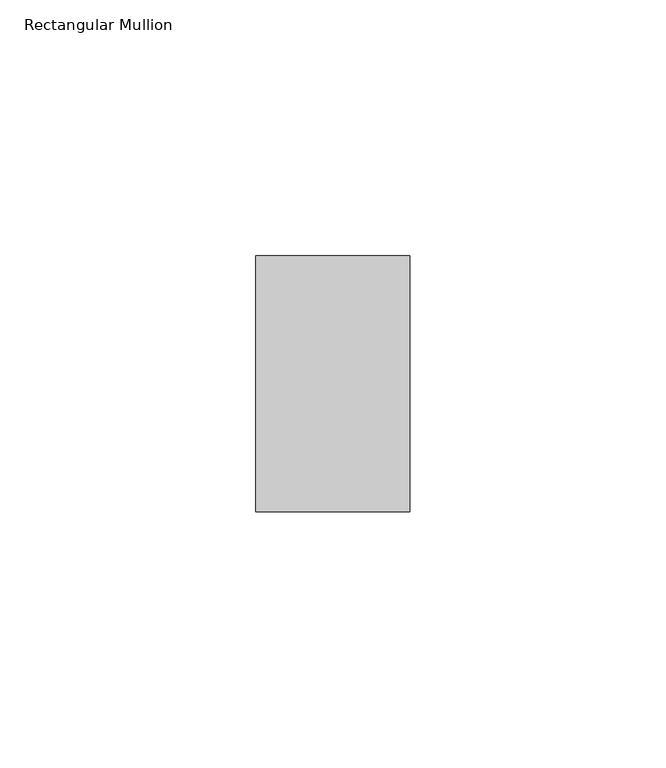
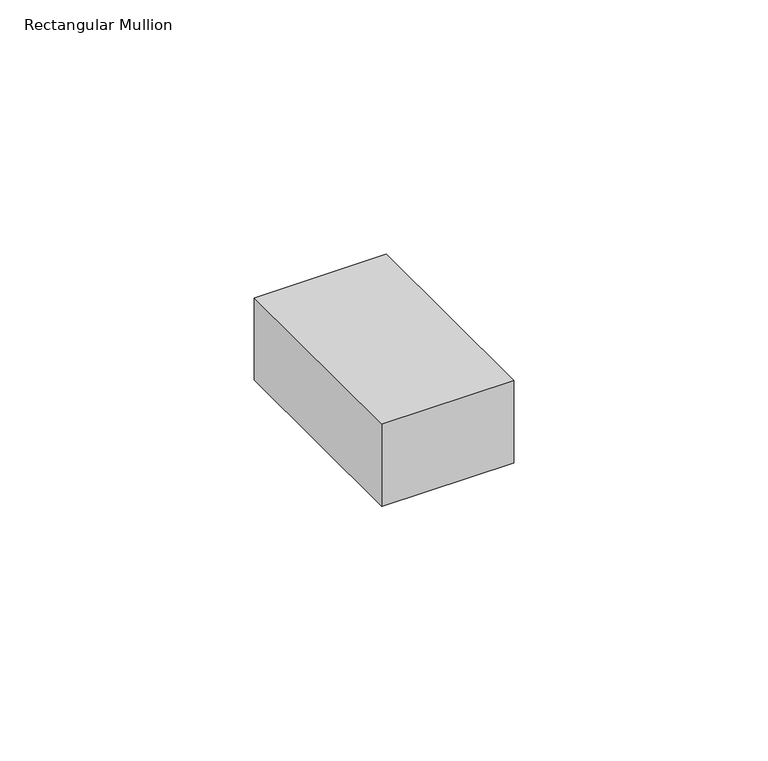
"""IFC4 building model written with IfcOpenShell, lengths in millimetres: member geometry, Rectangular Mullion : ARQ_TV_MULL_50x30mm."""

from ifc_helpers import new_model, si_unit, frame, origin, place, context, project, spatial, polyline, outline, extrude, source, transform, mapped, element, save


def rectangular_mullion_22ee7f7e(model_context):
    return source(origin(), model_context, "Body", "SweptSolid", [
        extrude(outline(polyline([(0.0, 25.0), (0.0, -25.0), (-30.0, -25.0), (-30.0, 25.0), (0.0, 25.0)])), frame((0.0, 0.0, -19.763927), z_axis=(0.0, 0.0, 1.0), x_axis=(1.0, 0.0, 0.0)), (0.0, 0.0, 1.0), 19.763927),
    ])


if __name__ == "__main__":
    model = new_model("IFC4")
    model_context = context("Model", 3, world=origin())
    ifc_project = project(units=[si_unit("LENGTHUNIT", "METRE", prefix="MILLI")], contexts=[model_context])
    site = spatial("IfcSite", under=ifc_project)
    building = spatial("IfcBuilding", under=site)
    placement = place(None, origin())
    rectangular_mullion_shape = rectangular_mullion_22ee7f7e(model_context)
    element("IfcMember", 1, ObjectType="Rectangular Mullion : ARQ_TV_MULL_50x30mm", at=placement, inside=building, context=model_context, shape_type="MappedRepresentation", body=[
        mapped(rectangular_mullion_shape, transform((0.0, 0.0, 0.0), x_axis=(1.0, 0.0, 0.0), y_axis=(0.0, 1.0, 0.0), z_axis=(0.0, 0.0, 1.0))),
    ])
    save(model, "model.ifc")
